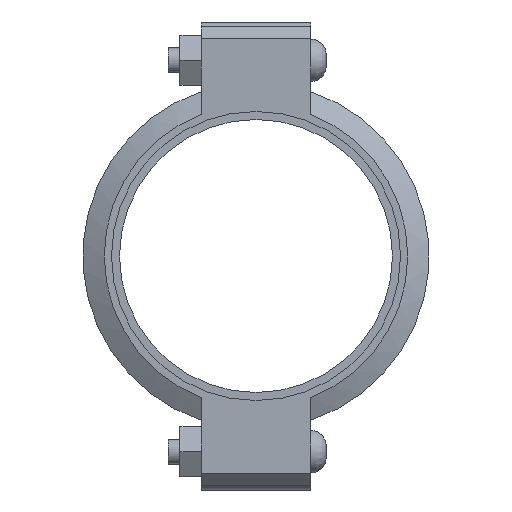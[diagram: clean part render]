
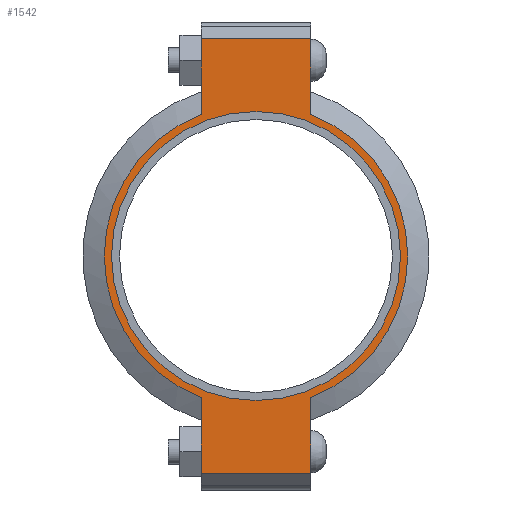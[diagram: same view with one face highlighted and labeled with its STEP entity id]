
A CAD part, left-side view. The second image highlights one B-rep face of the part: STEP entity #1542.
In plain terms, the highlighted planar face has unit normal (-1, 0, 0) as drawn and (0, 0, 1) by its records, which use the part's own axes.
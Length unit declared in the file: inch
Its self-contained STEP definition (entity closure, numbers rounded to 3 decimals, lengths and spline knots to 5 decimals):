
#166=LINE('',#2691,#259);
#174=LINE('',#2727,#267);
#181=LINE('',#2748,#274);
#190=LINE('',#2780,#283);
#191=LINE('',#2784,#284);
#192=LINE('',#2786,#285);
#259=VECTOR('',#2195,0.3937);
#267=VECTOR('',#2211,0.3937);
#274=VECTOR('',#2230,0.3937);
#283=VECTOR('',#2255,0.3937);
#284=VECTOR('',#2260,0.3937);
#285=VECTOR('',#2261,0.3937);
#341=FACE_BOUND('',#519,.T.);
#413=FACE_OUTER_BOUND('',#518,.T.);
#518=EDGE_LOOP('',(#1283,#1284,#1285,#1286,#1287,#1288,#1289,#1290));
#519=EDGE_LOOP('',(#1291));
#591=CIRCLE('',#1761,4.3125);
#617=CIRCLE('',#1820,4.53);
#618=CIRCLE('',#1821,4.53);
#683=VERTEX_POINT('',#2507);
#726=VERTEX_POINT('',#2688);
#727=VERTEX_POINT('',#2690);
#738=VERTEX_POINT('',#2722);
#739=VERTEX_POINT('',#2726);
#746=VERTEX_POINT('',#2745);
#747=VERTEX_POINT('',#2747);
#757=VERTEX_POINT('',#2783);
#758=VERTEX_POINT('',#2785);
#839=EDGE_CURVE('',#683,#683,#591,.T.);
#900=EDGE_CURVE('',#727,#726,#166,.T.);
#914=EDGE_CURVE('',#739,#738,#174,.T.);
#924=EDGE_CURVE('',#747,#746,#181,.T.);
#939=EDGE_CURVE('',#739,#726,#190,.T.);
#940=EDGE_CURVE('',#738,#747,#617,.T.);
#941=EDGE_CURVE('',#757,#746,#191,.T.);
#942=EDGE_CURVE('',#757,#758,#192,.T.);
#943=EDGE_CURVE('',#758,#727,#618,.T.);
#1283=ORIENTED_EDGE('',*,*,#939,.F.);
#1284=ORIENTED_EDGE('',*,*,#914,.T.);
#1285=ORIENTED_EDGE('',*,*,#940,.T.);
#1286=ORIENTED_EDGE('',*,*,#924,.T.);
#1287=ORIENTED_EDGE('',*,*,#941,.F.);
#1288=ORIENTED_EDGE('',*,*,#942,.T.);
#1289=ORIENTED_EDGE('',*,*,#943,.T.);
#1290=ORIENTED_EDGE('',*,*,#900,.T.);
#1291=ORIENTED_EDGE('',*,*,#839,.T.);
#1384=PLANE('',#1819);
#1542=ADVANCED_FACE('',(#413,#341),#1384,.T.);
#1761=AXIS2_PLACEMENT_3D('',#2509,#2071,#2072);
#1819=AXIS2_PLACEMENT_3D('',#2781,#2256,#2257);
#1820=AXIS2_PLACEMENT_3D('',#2782,#2258,#2259);
#1821=AXIS2_PLACEMENT_3D('',#2787,#2262,#2263);
#2071=DIRECTION('center_axis',(0.,0.,-1.));
#2072=DIRECTION('ref_axis',(-1.,0.,0.));
#2195=DIRECTION('',(-1.,0.,0.));
#2211=DIRECTION('',(1.,0.,0.));
#2230=DIRECTION('',(1.,0.,0.));
#2255=DIRECTION('',(0.,1.,0.));
#2256=DIRECTION('center_axis',(0.,0.,1.));
#2257=DIRECTION('ref_axis',(1.,0.,0.));
#2258=DIRECTION('center_axis',(0.,0.,1.));
#2259=DIRECTION('ref_axis',(-1.,0.,0.));
#2260=DIRECTION('',(0.,-1.,0.));
#2261=DIRECTION('',(-1.,0.,0.));
#2262=DIRECTION('center_axis',(0.,0.,1.));
#2263=DIRECTION('ref_axis',(-1.,0.,0.));
#2507=CARTESIAN_POINT('',(4.3125,0.,1.16));
#2509=CARTESIAN_POINT('Origin',(0.,0.,1.16));
#2688=CARTESIAN_POINT('',(-6.485,1.63,1.16));
#2690=CARTESIAN_POINT('',(-4.22658,1.63,1.16));
#2691=CARTESIAN_POINT('',(-6.985,1.63,1.16));
#2722=CARTESIAN_POINT('',(-4.22658,-1.63,1.16));
#2726=CARTESIAN_POINT('',(-6.485,-1.63,1.16));
#2727=CARTESIAN_POINT('',(6.985,-1.63,1.16));
#2745=CARTESIAN_POINT('',(6.485,-1.63,1.16));
#2747=CARTESIAN_POINT('',(4.22658,-1.63,1.16));
#2748=CARTESIAN_POINT('',(6.985,-1.63,1.16));
#2780=CARTESIAN_POINT('',(-6.485,0.815,1.16));
#2781=CARTESIAN_POINT('Origin',(0.,0.,
1.16));
#2782=CARTESIAN_POINT('Origin',(0.,0.,1.16));
#2783=CARTESIAN_POINT('',(6.485,1.63,1.16));
#2784=CARTESIAN_POINT('',(6.485,-0.815,1.16));
#2785=CARTESIAN_POINT('',(4.22658,1.63,1.16));
#2786=CARTESIAN_POINT('',(-6.985,1.63,1.16));
#2787=CARTESIAN_POINT('Origin',(0.,0.,1.16));
